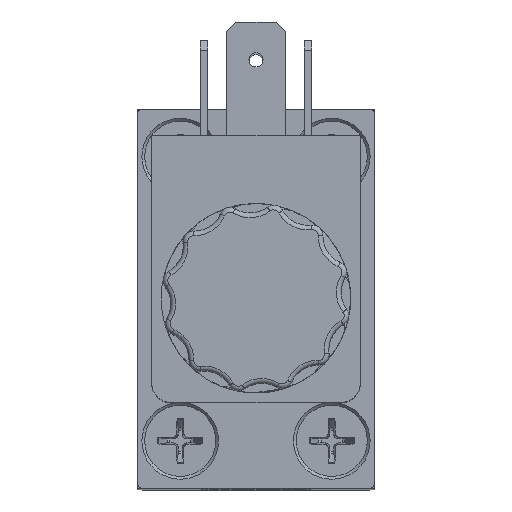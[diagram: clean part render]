
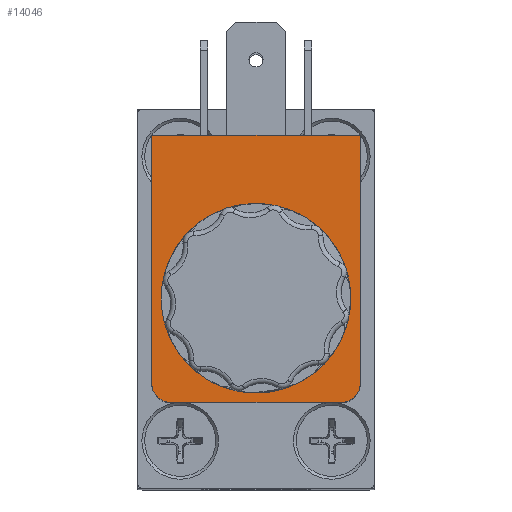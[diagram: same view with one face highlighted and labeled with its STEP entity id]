
A CAD part, top view. The second image highlights one B-rep face of the part: STEP entity #14046.
In plain terms, the highlighted planar face has unit normal (0, 0, 1).
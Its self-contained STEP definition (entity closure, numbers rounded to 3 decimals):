
#1631 = AXIS2_PLACEMENT_3D ( 'NONE', #5487, #5500, #5501 ) ;
#1705 = AXIS2_PLACEMENT_3D ( 'NONE', #6786, #6790, #6791 ) ;
#1708 = AXIS2_PLACEMENT_3D ( 'NONE', #6804, #6805, #6806 ) ;
#1713 = AXIS2_PLACEMENT_3D ( 'NONE', #6826, #6829, #6830 ) ;
#5487 = CARTESIAN_POINT ( 'NONE',  ( 0., -3.1, 30.5 ) ) ;
#5491 = PLANE ( 'NONE',  #1631 ) ;
#5500 = DIRECTION ( 'NONE',  ( 0., 0., 1. ) ) ;
#5501 = DIRECTION ( 'NONE',  ( 0.707, 0.707, 0. ) ) ;
#6096 = FACE_OUTER_BOUND ( 'NONE', #27181, .T. ) ;
#6105 = FACE_BOUND ( 'NONE', #27102, .T. ) ;
#6384 = CIRCLE ( 'NONE', #1705, 8.3 ) ;
#6394 = CIRCLE ( 'NONE', #1708, 2. ) ;
#6786 = CARTESIAN_POINT ( 'NONE',  ( 0., 0., 30.5 ) ) ;
#6790 = DIRECTION ( 'NONE',  ( 0., 0., -1. ) ) ;
#6791 = DIRECTION ( 'NONE',  ( -1., 0., 0. ) ) ;
#6804 = CARTESIAN_POINT ( 'NONE',  ( 9., 9., 30.5 ) ) ;
#6805 = DIRECTION ( 'NONE',  ( 0., 0., -1. ) ) ;
#6806 = DIRECTION ( 'NONE',  ( 0.707, 0.707, 0. ) ) ;
#6811 = CARTESIAN_POINT ( 'NONE',  ( -9., 11., 30.5 ) ) ;
#6812 = DIRECTION ( 'NONE',  ( 1., 0., 0. ) ) ;
#6824 = CARTESIAN_POINT ( 'NONE',  ( -11., -17.2, 30.5 ) ) ;
#6825 = DIRECTION ( 'NONE',  ( 0., 1., 0. ) ) ;
#6826 = CARTESIAN_POINT ( 'NONE',  ( -9., 9., 30.5 ) ) ;
#6829 = DIRECTION ( 'NONE',  ( 0., 0., -1. ) ) ;
#6830 = DIRECTION ( 'NONE',  ( -0.707, 0.707, 0. ) ) ;
#6833 = CARTESIAN_POINT ( 'NONE',  ( 11., 9., 30.5 ) ) ;
#6834 = DIRECTION ( 'NONE',  ( 0., -1., 0. ) ) ;
#6835 = CARTESIAN_POINT ( 'NONE',  ( 11., -17.2, 30.5 ) ) ;
#6836 = DIRECTION ( 'NONE',  ( -1., 0., 0. ) ) ;
#7672 = LINE ( 'NONE', #6811, #7673 ) ;
#7673 = VECTOR ( 'NONE', #6812, 1000. ) ;
#7677 = LINE ( 'NONE', #6824, #7683 ) ;
#7683 = VECTOR ( 'NONE', #6825, 1000. ) ;
#7688 = CIRCLE ( 'NONE', #1713, 2. ) ;
#7689 = LINE ( 'NONE', #6833, #7690 ) ;
#7690 = VECTOR ( 'NONE', #6834, 1000. ) ;
#7691 = LINE ( 'NONE', #6835, #7692 ) ;
#7692 = VECTOR ( 'NONE', #6836, 1000. ) ;
#9270 = VERTEX_POINT ( 'NONE', #20018 ) ;
#9271 = VERTEX_POINT ( 'NONE', #20019 ) ;
#9277 = VERTEX_POINT ( 'NONE', #20025 ) ;
#9280 = VERTEX_POINT ( 'NONE', #20028 ) ;
#9281 = VERTEX_POINT ( 'NONE', #20029 ) ;
#9310 = VERTEX_POINT ( 'NONE', #20055 ) ;
#12498 = VERTEX_POINT ( 'NONE', #12499 ) ;
#12499 = CARTESIAN_POINT ( 'NONE',  ( -8.3, 0., 30.5 ) ) ;
#14046 = ADVANCED_FACE ( 'NONE', ( #6096, #6105 ), #5491, .T. ) ;
#17043 = ORIENTED_EDGE ( 'NONE', *, *, #18340, .F. ) ;
#17044 = ORIENTED_EDGE ( 'NONE', *, *, #18343, .F. ) ;
#17045 = ORIENTED_EDGE ( 'NONE', *, *, #18351, .F. ) ;
#17046 = ORIENTED_EDGE ( 'NONE', *, *, #18349, .F. ) ;
#17047 = ORIENTED_EDGE ( 'NONE', *, *, #18354, .F. ) ;
#17048 = ORIENTED_EDGE ( 'NONE', *, *, #18353, .F. ) ;
#17049 = ORIENTED_EDGE ( 'NONE', *, *, #18334, .T. ) ;
#18334 = EDGE_CURVE ( 'NONE', #12498, #12498, #6384, .T. ) ;
#18340 = EDGE_CURVE ( 'NONE', #9270, #9271, #6394, .T. ) ;
#18343 = EDGE_CURVE ( 'NONE', #9277, #9270, #7672, .T. ) ;
#18349 = EDGE_CURVE ( 'NONE', #9280, #9310, #7677, .T. ) ;
#18351 = EDGE_CURVE ( 'NONE', #9310, #9277, #7688, .T. ) ;
#18353 = EDGE_CURVE ( 'NONE', #9271, #9281, #7689, .T. ) ;
#18354 = EDGE_CURVE ( 'NONE', #9281, #9280, #7691, .T. ) ;
#20018 = CARTESIAN_POINT ( 'NONE',  ( 9., 11., 30.5 ) ) ;
#20019 = CARTESIAN_POINT ( 'NONE',  ( 11., 9., 30.5 ) ) ;
#20025 = CARTESIAN_POINT ( 'NONE',  ( -9., 11., 30.5 ) ) ;
#20028 = CARTESIAN_POINT ( 'NONE',  ( -11., -17.2, 30.5 ) ) ;
#20029 = CARTESIAN_POINT ( 'NONE',  ( 11., -17.2, 30.5 ) ) ;
#20055 = CARTESIAN_POINT ( 'NONE',  ( -11., 9., 30.5 ) ) ;
#27102 = EDGE_LOOP ( 'NONE', ( #17049 ) ) ;
#27181 = EDGE_LOOP ( 'NONE', ( #17043, #17044, #17045, #17046, #17047, #17048 ) ) ;
